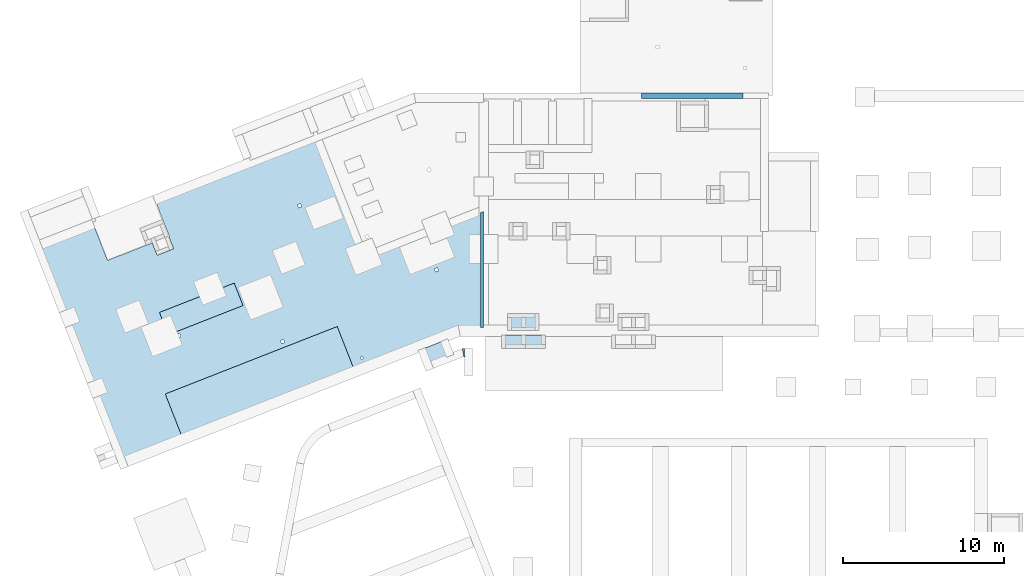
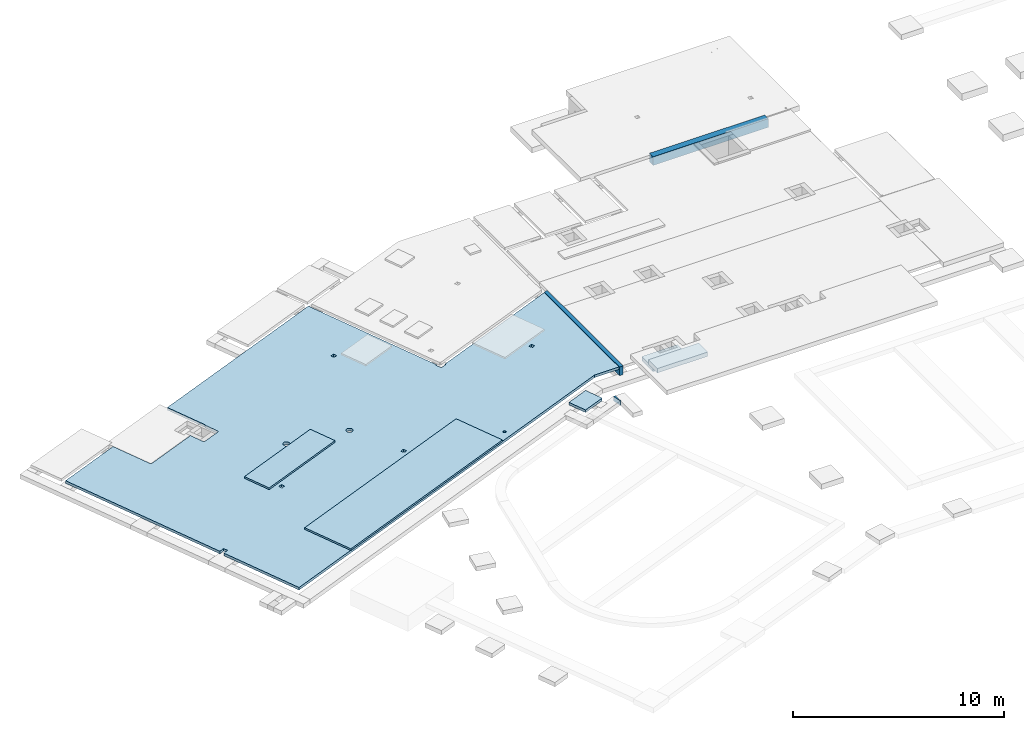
# One storey, part 3 of 9: 6 slabs, 2 beams, 1 footing, 8 openings.
"""IFC2X3 building model written with IfcOpenShell, lengths in metres."""

from ifc_helpers import new_model, entity, si_unit, converted_unit, direction, frame, frame_2d, origin, origin_with_axes, place, context, subcontext, project, spatial, polyline, rectangle, circle, outline, extrude, faceted_brep, material, element, save


model = new_model("IFC2X3")

# Units and contexts
model_context = context("Model", 3, precision=1e-05, world=origin(), true_north=direction((-0.407059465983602, -0.913401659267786)))
body_context = subcontext(model_context, "Body", "Model", "MODEL_VIEW")
ifc_project = project(units=[si_unit("LENGTHUNIT", "METRE"), si_unit("AREAUNIT", "SQUARE_METRE"), si_unit("VOLUMEUNIT", "CUBIC_METRE"), si_unit("MASSUNIT", "GRAM", prefix="KILO"), converted_unit("PLANEANGLEUNIT", "DEGREE", entity("IfcPlaneAngleMeasure", 0.0174532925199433), si_unit("PLANEANGLEUNIT", "RADIAN"), dimensions=[0, 0, 0, 0, 0, 0, 0])], contexts=[model_context])

# Site, buildings, storey
site_placement = place(None, origin())
site = spatial("IfcSite", under=ifc_project, at=site_placement, Name="Site", CompositionType="ELEMENT")
building_1_placement = place(site_placement, origin())
building_1 = spatial("IfcBuilding", under=site, at=building_1_placement, Name="Site", CompositionType="COMPLEX")
building_2_placement = place(building_1_placement, origin())
building_2 = spatial("IfcBuilding", under=building_1, at=building_2_placement, Name="Bâtiments", CompositionType="ELEMENT")
storey_placement = place(building_2_placement, frame((0.0, 0.0, -7.1)))
storey = spatial("IfcBuildingStorey", under=building_2, at=storey_placement, Name="FONDATIONS", CompositionType="ELEMENT", Elevation=-7.1)

# Footing
ifc_material_1 = material(Name="Béton")
footing_placement = place(storey_placement, frame((26.5544104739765, -6.84028410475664, 1.55)))
element("IfcFooting", 1, at=footing_placement, inside=storey, material=ifc_material_1, Name="SF001", PredefinedType="STRIP_FOOTING", context=body_context, shape_type="Brep", body=[
    faceted_brep([(0.111784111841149, 0.119046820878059, 0.0), (0.111787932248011, 0.500000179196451, 0.0), (0.0, 0.500001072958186, 0.0), (0.0941435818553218, 3.20249768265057e-07, 0.0), (0.134199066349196, 0.0, 0.0), (0.111787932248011, 0.500000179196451, 0.25), (0.111784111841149, 0.119046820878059, 0.25), (0.134199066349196, 0.0, 0.25), (0.0941435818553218, 3.20249768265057e-07, 0.25), (0.0, 0.500001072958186, 0.25)], [[[0, 1, 2, 3, 4]], [[5, 6, 7, 8, 9]], [[1, 0, 6, 5]], [[2, 1, 5, 9]], [[3, 2, 9, 8]], [[4, 3, 8, 7]], [[0, 4, 7, 6]]], orient=[[False], [False], [False], [False], [False], [False], [False]]),
])

# Beams
ifc_material_2 = material(Name="Béton")
beam_1_placement = place(storey_placement, frame((27.6626147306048, -5.01889281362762, 1.8)))
element("IfcBeam", 2, at=beam_1_placement, inside=storey, material=ifc_material_2, Name="PoR 00", context=body_context, shape_type="Brep", body=[
    faceted_brep([(0.0, 4.59771629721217e-07, 0.0), (1.63881145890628e-05, 7.12880681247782, 0.0), (1.63881145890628e-05, 7.12880681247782, 0.5), (0.0, 4.59771629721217e-07, 0.5), (0.200016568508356, 7.20727761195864, 0.0), (0.200016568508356, 7.20727761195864, 0.5), (0.199999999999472, 0.0, 0.0), (0.199999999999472, 0.0, 0.5)], [[[0, 1, 2, 3]], [[1, 4, 5, 2]], [[4, 6, 7, 5]], [[6, 0, 3, 7]], [[7, 3, 2, 5]], [[0, 6, 4, 1]]], orient=[[False], [False], [False], [False], [False], [False]]),
])
ifc_material_3 = material(Name="Béton")
beam_2_placement = place(storey_placement, frame((37.7126440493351, 9.21038730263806, 1.8)))
element("IfcBeam", 3, at=beam_2_placement, inside=storey, material=ifc_material_3, Name="PoR 00", context=body_context, shape_type="SweptSolid", body=[
    extrude(rectangle(XDim=0.35, YDim=0.5, at=frame_2d((0.175, 0.25), x_axis=(1.0, 0.0))), frame((0.0, 0.0, 0.0), z_axis=(1.0, 0.0, 0.0), x_axis=(0.0, 1.0, 0.0)), (0.0, 0.0, 1.0), 6.3),
])

# Slabs
ifc_material_4 = material(Name="Dalle_BA")
slab_1_placement = place(storey_placement, frame((28.9688861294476, -6.33842566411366, 2.3)))
element("IfcSlab", 4, at=slab_1_placement, inside=storey, material=ifc_material_4, PredefinedType="FLOOR", context=body_context, shape_type="SweptSolid", body=[
    extrude(rectangle(XDim=0.849536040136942, YDim=2.75, at=frame_2d((-1.375, 0.424768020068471), x_axis=(0.0, 1.0))), frame((2.75, 0.0, 0.0), z_axis=(0.0, 0.0, 1.0), x_axis=(1.0, 0.0, 0.0)), (0.0, 0.0, 1.0), 0.25),
])
ifc_material_5 = material(Name="Dalle_BA")
slab_2_placement = place(storey_placement, frame((8.0513469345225, -11.7780642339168, 2.3)))
element("IfcSlab", 5, at=slab_2_placement, inside=storey, material=ifc_material_5, PredefinedType="FLOOR", context=body_context, shape_type="SweptSolid", body=[
    extrude(rectangle(XDim=2.80014719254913, YDim=11.4999641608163, at=frame_2d((5.86409281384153, 0.796815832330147), x_axis=(0.365246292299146, -0.93091092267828))), frame((0.0, 2.60668760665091, 0.0), z_axis=(0.0, 0.0, 1.0), x_axis=(1.0, 0.0, 0.0)), (0.0, 0.0, 1.0), 0.1),
])
ifc_material_6 = material(Name="Dalle_BA")
slab_3_placement = place(storey_placement, frame((24.1292469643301, -7.28373430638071, 2.15)))
element("IfcSlab", 6, at=slab_3_placement, inside=storey, material=ifc_material_6, PredefinedType="FLOOR", context=body_context, shape_type="SweptSolid", body=[
    extrude(outline(polyline([(0.0, 0.937895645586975), (0.366176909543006, 0.0), (1.54232896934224, 0.458131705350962), (1.17344580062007, 1.39830487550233), (0.0, 0.937895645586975)])), origin_with_axes(), (0.0, 0.0, 1.0), 0.15),
])
ifc_material_7 = material(Name="Dalle_BA")
slab_4_placement = place(storey_placement, frame((29.3701009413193, -5.21843455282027, 1.55)))
element("IfcSlab", 7, at=slab_4_placement, inside=storey, material=ifc_material_7, PredefinedType="FLOOR", context=body_context, shape_type="SweptSolid", body=[
    extrude(rectangle(XDim=1.05, YDim=1.95, at=frame_2d((0.975000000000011, -0.525000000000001), x_axis=(2.4253192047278e-14, -1.0))), frame((0.0, 1.05, 0.0), z_axis=(0.0, 0.0, 1.0), x_axis=(1.0, 0.0, 0.0)), (0.0, 0.0, 1.0), 0.25),
])
ifc_material_8 = material(Name="Béton")
slab_5_placement = place(storey_placement, frame((7.68808415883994, -5.49101822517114, 2.3)))
element("IfcSlab", 8, at=slab_5_placement, inside=storey, material=ifc_material_8, PredefinedType="FLOOR", context=body_context, shape_type="SweptSolid", body=[
    extrude(rectangle(XDim=4.99997026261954, YDim=1.50009912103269, at=frame_2d((2.05331064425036, 1.61133962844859), x_axis=(0.93091092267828, 0.365246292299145))), frame((0.547905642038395, 0.0, 0.0), z_axis=(0.0, 0.0, 1.0), x_axis=(1.0, 0.0, 0.0)), (0.0, 0.0, 1.0), 0.1),
])

# Slab, openings
ifc_material_9 = material(Name="Dalle_BA")
slab_6_placement = place(storey_placement, frame((0.257748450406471, -13.1913165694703, 2.15)))
slab_6 = element("IfcSlab", 9, at=slab_6_placement, inside=storey, material=ifc_material_9, PredefinedType="FLOOR", context=body_context, shape_type="SweptSolid", body=[
    extrude(outline(polyline([(27.3841917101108, 15.2755515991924), (20.3683429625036, 12.518934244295), (20.3866052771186, 12.4723886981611), (20.070095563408, 12.3482049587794), (19.9459118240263, 12.66471467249), (19.9924786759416, 12.6829853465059), (17.1619928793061, 19.8971095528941), (7.19371306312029, 15.986018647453), (8.03391370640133, 13.8445815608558), (4.20057968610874, 12.3405589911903), (3.41673599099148, 14.3375875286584), (3.36018708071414, 14.4824853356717), (0.0, 13.1640997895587), (3.4140758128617, 4.46259887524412), (3.68403551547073, 4.56851854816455), (3.77169462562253, 4.34509992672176), (3.50173515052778, 4.23918034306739), (5.16499798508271, 0.0), (26.0533750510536, 8.19569251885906), (27.3841754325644, 8.19607669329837), (27.3841917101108, 15.2755515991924)])), origin_with_axes(), (0.0, 0.0, 1.0), 0.15),
])
opening_1_placement = place(slab_6_placement, frame((13.5547906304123, 9.87238868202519, 0.0)))
element("IfcOpeningElement", 10, at=opening_1_placement, cuts=slab_6, Name="Trémie dans dalle", ObjectType="Opening", context=body_context, shape_type="SweptSolid", body=[
    extrude(circle(Radius=0.17, at=frame_2d((-1.81898940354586e-15, -1.36424205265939e-15), x_axis=(1.0, 0.0))), frame((0.169298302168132, 0.169298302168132, 0.0), z_axis=(0.0, 0.0, 1.0), x_axis=(1.0, 0.0, 0.0)), (0.0, 0.0, 1.0), 0.15),
])
opening_2_placement = place(slab_6_placement, frame((10.4068774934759, 10.3977735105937, 0.0)))
element("IfcOpeningElement", 11, at=opening_2_placement, cuts=slab_6, Name="Trémie dans dalle", ObjectType="Opening", context=body_context, shape_type="SweptSolid", body=[
    extrude(circle(Radius=0.17, at=frame_2d((3.63797880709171e-15, 1.81898940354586e-15), x_axis=(1.0, 0.0))), frame((0.169298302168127, 0.169298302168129, 0.0), z_axis=(0.0, 0.0, 1.0), x_axis=(1.0, 0.0, 0.0)), (0.0, 0.0, 1.0), 0.15),
])
opening_3_placement = place(slab_6_placement, frame((16.0246886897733, 15.6109166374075, 0.0)))
element("IfcOpeningElement", 12, at=opening_3_placement, cuts=slab_6, Name="Trémie dans dalle", ObjectType="Opening", context=body_context, shape_type="SweptSolid", body=[
    extrude(rectangle(XDim=0.200000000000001, YDim=0.199999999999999, at=frame_2d((9.09494701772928e-16, 0.0), x_axis=(0.365246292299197, -0.93091092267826))), frame((0.129615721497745, 0.129615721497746, 0.0), z_axis=(0.0, 0.0, 1.0), x_axis=(1.0, 0.0, 0.0)), (0.0, 0.0, 1.0), 0.15),
])
opening_4_placement = place(slab_6_placement, frame((8.49992587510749, 7.51821648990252, 0.0)))
element("IfcOpeningElement", 13, at=opening_4_placement, cuts=slab_6, Name="Trémie dans dalle", ObjectType="Opening", context=body_context, shape_type="SweptSolid", body=[
    extrude(rectangle(XDim=0.2, YDim=0.2, at=frame_2d((9.09494701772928e-16, 0.0), x_axis=(0.365246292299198, -0.930910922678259))), frame((0.129615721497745, 0.129615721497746, 0.0), z_axis=(0.0, 0.0, 1.0), x_axis=(1.0, 0.0, 0.0)), (0.0, 0.0, 1.0), 0.15),
])
opening_5_placement = place(slab_6_placement, frame((14.9641783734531, 7.15659923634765, 0.0)))
element("IfcOpeningElement", 14, at=opening_5_placement, cuts=slab_6, Name="Trémie dans dalle", ObjectType="Opening", context=body_context, shape_type="SweptSolid", body=[
    extrude(rectangle(XDim=0.199999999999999, YDim=0.2, at=frame_2d((-9.09494701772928e-16, 0.0), x_axis=(0.930910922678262, 0.365246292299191))), frame((0.129615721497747, 0.129615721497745, 0.0), z_axis=(0.0, 0.0, 1.0), x_axis=(1.0, 0.0, 0.0)), (0.0, 0.0, 1.0), 0.15),
])
opening_6_placement = place(slab_6_placement, frame((24.5439232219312, 11.6220345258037, 0.0)))
element("IfcOpeningElement", 15, at=opening_6_placement, cuts=slab_6, Name="Trémie dans dalle", ObjectType="Opening", context=body_context, shape_type="SweptSolid", body=[
    extrude(rectangle(XDim=0.2, YDim=0.199999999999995, at=frame_2d((0.0, 0.0), x_axis=(0.365246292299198, -0.930910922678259))), frame((0.129615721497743, 0.129615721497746, 0.0), z_axis=(0.0, 0.0, 1.0), x_axis=(1.0, 0.0, 0.0)), (0.0, 0.0, 1.0), 0.15),
])
opening_7_placement = place(slab_6_placement, frame((19.9438739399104, 6.19157763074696, 0.0)))
element("IfcOpeningElement", 16, at=opening_7_placement, cuts=slab_6, Name="Trémie dans dalle", ObjectType="Opening", context=body_context, shape_type="SweptSolid", body=[
    extrude(circle(Radius=0.0800000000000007, at=frame_2d((3.63797880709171e-15, 0.0), x_axis=(1.0, 0.0))), frame((0.0796697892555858, 0.0796697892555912, 0.0), z_axis=(0.0, 0.0, 1.0), x_axis=(1.0, 0.0, 0.0)), (0.0, 0.0, 1.0), 0.15),
])
opening_8_placement = place(slab_6_placement, frame((6.97449881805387, 12.6596575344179, 0.0)))
element("IfcOpeningElement", 17, at=opening_8_placement, cuts=slab_6, Name="Trémie dans dalle", ObjectType="Opening", context=body_context, shape_type="SweptSolid", body=[
    extrude(outline(polyline([(-0.667275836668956, 0.194866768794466), (-0.356816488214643, -0.596407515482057), (0.667185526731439, -0.194636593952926), (0.356906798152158, 0.596177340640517), (-0.667275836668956, 0.194866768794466)])), frame((0.667275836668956, 0.596407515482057, 0.0), z_axis=(0.0, 0.0, 1.0), x_axis=(1.0, 0.0, 0.0)), (0.0, 0.0, 1.0), 0.15),
])

save(model, "model.ifc")
